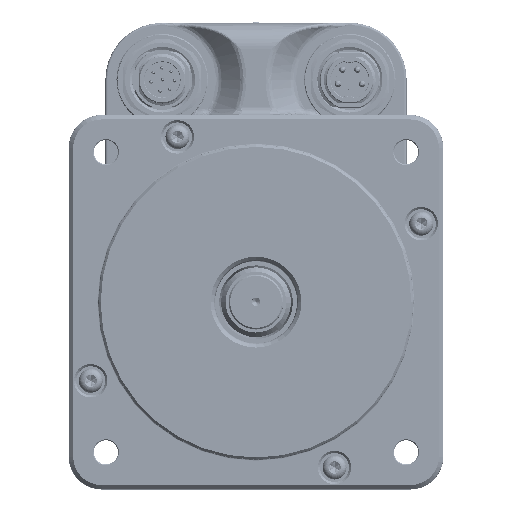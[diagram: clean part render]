
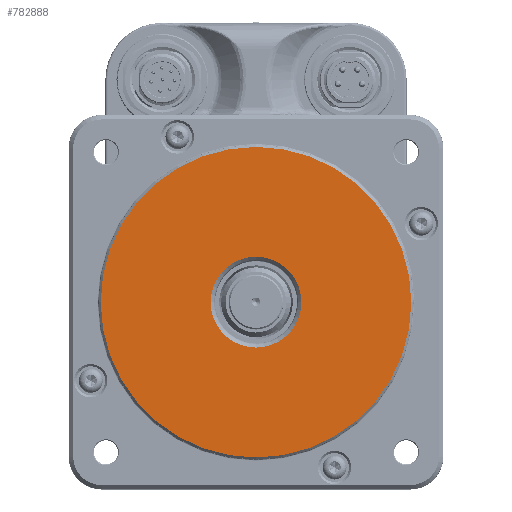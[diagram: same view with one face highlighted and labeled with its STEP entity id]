
A CAD part, top view. The second image highlights one B-rep face of the part: STEP entity #782888.
In plain terms, the highlighted planar face has unit normal (0, 0, 1).
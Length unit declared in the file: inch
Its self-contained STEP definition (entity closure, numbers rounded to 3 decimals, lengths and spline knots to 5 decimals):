
#37459 = AXIS2_PLACEMENT_3D ( 'NONE', #321522, #574180, #38963 ) ;
#38963 = DIRECTION ( 'NONE',  ( 0., 1., 0. ) ) ;
#56561 = EDGE_CURVE ( 'NONE', #266036, #463180, #218219, .T. ) ;
#79658 = CARTESIAN_POINT ( 'NONE',  ( 0., 1.41781, -1.0676 ) ) ;
#97079 = CARTESIAN_POINT ( 'NONE',  ( 0., -1.41781, -1.0676 ) ) ;
#98888 = PLANE ( 'NONE',  #354968 ) ;
#148920 = CIRCLE ( 'NONE', #801597, 0.41437 ) ;
#203886 = AXIS2_PLACEMENT_3D ( 'NONE', #320463, #667298, #675823 ) ;
#218219 = CIRCLE ( 'NONE', #203886, 1.41781 ) ;
#266036 = VERTEX_POINT ( 'NONE', #79658 ) ;
#266783 = DIRECTION ( 'NONE',  ( 0., 1., 0. ) ) ;
#270945 = EDGE_LOOP ( 'NONE', ( #334807, #479800 ) ) ;
#320463 = CARTESIAN_POINT ( 'NONE',  ( 0., 0., -1.0676 ) ) ;
#321522 = CARTESIAN_POINT ( 'NONE',  ( 0., 0., -1.0676 ) ) ;
#334807 = ORIENTED_EDGE ( 'NONE', *, *, #771159, .T. ) ;
#354968 = AXIS2_PLACEMENT_3D ( 'NONE', #556084, #760194, #368631 ) ;
#355776 = FACE_OUTER_BOUND ( 'NONE', #658873, .T. ) ;
#368631 = DIRECTION ( 'NONE',  ( 0., 1., 0. ) ) ;
#413413 = CARTESIAN_POINT ( 'NONE',  ( 0., 0.41437, -1.0676 ) ) ;
#463180 = VERTEX_POINT ( 'NONE', #97079 ) ;
#467740 = DIRECTION ( 'NONE',  ( 0., 1., 0. ) ) ;
#470636 = AXIS2_PLACEMENT_3D ( 'NONE', #519554, #784624, #266783 ) ;
#476371 = CARTESIAN_POINT ( 'NONE',  ( 0., 0., -1.0676 ) ) ;
#479800 = ORIENTED_EDGE ( 'NONE', *, *, #606934, .T. ) ;
#519554 = CARTESIAN_POINT ( 'NONE',  ( 0., 0., -1.0676 ) ) ;
#556084 = CARTESIAN_POINT ( 'NONE',  ( 0., 0., -1.0676 ) ) ;
#557464 = VERTEX_POINT ( 'NONE', #601148 ) ;
#574180 = DIRECTION ( 'NONE',  ( 0., 0., 1. ) ) ;
#601148 = CARTESIAN_POINT ( 'NONE',  ( 0., -0.41437, -1.0676 ) ) ;
#606934 = EDGE_CURVE ( 'NONE', #557464, #761842, #148920, .T. ) ;
#658873 = EDGE_LOOP ( 'NONE', ( #672813, #768800 ) ) ;
#667298 = DIRECTION ( 'NONE',  ( 0., 0., 1. ) ) ;
#672813 = ORIENTED_EDGE ( 'NONE', *, *, #687163, .T. ) ;
#675823 = DIRECTION ( 'NONE',  ( 0., 1., 0. ) ) ;
#686538 = FACE_BOUND ( 'NONE', #270945, .T. ) ;
#687163 = EDGE_CURVE ( 'NONE', #463180, #266036, #773914, .T. ) ;
#692942 = CIRCLE ( 'NONE', #470636, 0.41437 ) ;
#741595 = DIRECTION ( 'NONE',  ( 0., 0., -1. ) ) ;
#760194 = DIRECTION ( 'NONE',  ( 0., 0., 1. ) ) ;
#761842 = VERTEX_POINT ( 'NONE', #413413 ) ;
#768800 = ORIENTED_EDGE ( 'NONE', *, *, #56561, .T. ) ;
#771159 = EDGE_CURVE ( 'NONE', #761842, #557464, #692942, .T. ) ;
#773914 = CIRCLE ( 'NONE', #37459, 1.41781 ) ;
#782888 = ADVANCED_FACE ( 'NONE', ( #686538, #355776 ), #98888, .T. ) ;
#784624 = DIRECTION ( 'NONE',  ( 0., 0., -1. ) ) ;
#801597 = AXIS2_PLACEMENT_3D ( 'NONE', #476371, #741595, #467740 ) ;
